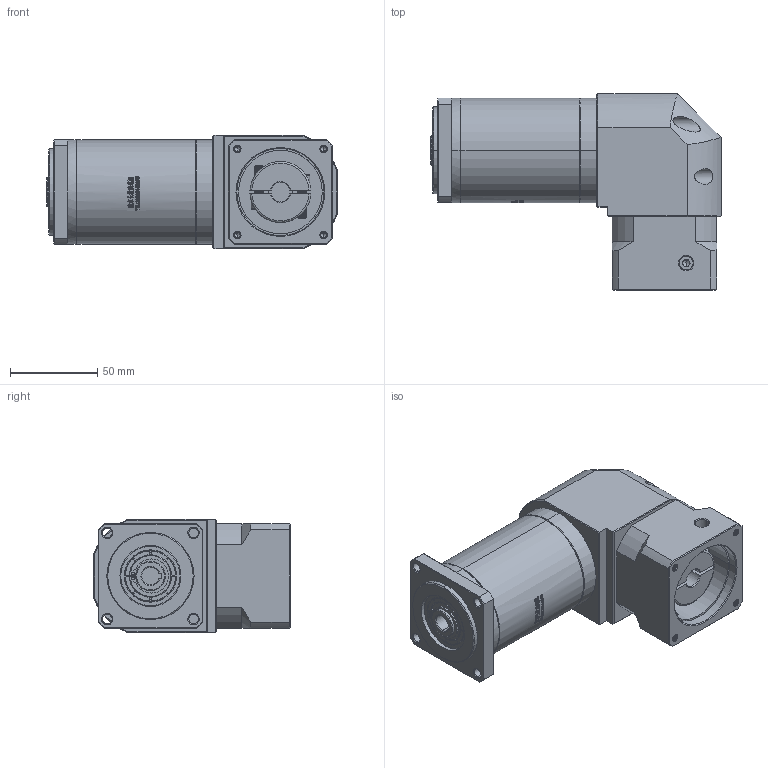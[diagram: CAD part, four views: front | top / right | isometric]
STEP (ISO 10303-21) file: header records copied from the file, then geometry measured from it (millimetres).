
FILE_DESCRIPTION (( 'STEP AP214' ), '1' );
FILE_NAME ('ZFR60-K10-L3-11-50-70-M4.STEP', '2022-04-20T08:32:59', ( '' ), ( 'Microsoft' ), 'SwSTEP 2.0', 'SolidWorks 2016', '' );
FILE_SCHEMA (( 'AUTOMOTIVE_DESIGN' ));
Length unit declared in the file: millimetre
Products named in the file (1): ZFR60-K10-L3-11-50-70-M4
Bounding box: 166.5 x 112.7 x 65 mm (x, y, z)
Volume: 629467 mm3; surface area: 84065.9 mm2
Topology: 5 solids, 6 shells, 2619 faces, 7150 edges, 4667 vertices
Faces by surface type: plane 1390, bspline 572, cylinder 351, cone 282, torus 24
Entity records: 140441 total; most frequent: CARTESIAN_POINT 50604, ORIENTED_EDGE 14260, DIRECTION 10304, EDGE_CURVE 7130, VERTEX_POINT 4667, LINE 4318, VECTOR 4318, AXIS2_PLACEMENT_3D 2993
